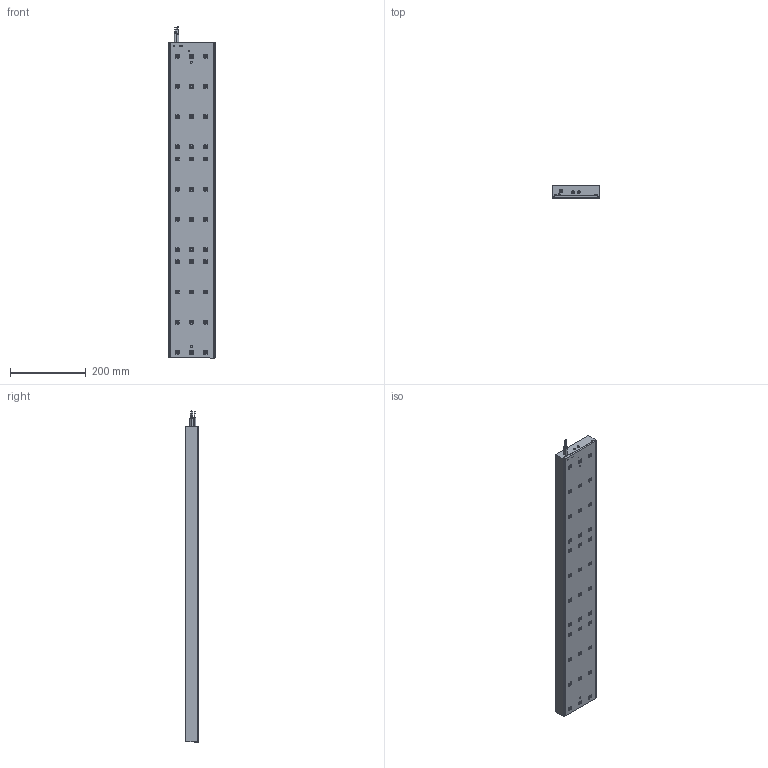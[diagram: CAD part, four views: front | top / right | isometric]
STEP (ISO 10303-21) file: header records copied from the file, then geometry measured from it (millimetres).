
FILE_DESCRIPTION (( 'STEP AP203' ), '1' );
FILE_NAME ('IC124-45 3D.STEP', '2022-10-24T20:42:14', ( '' ), ( '' ), 'SwSTEP 2.0', 'SolidWorks 2021', '' );
FILE_SCHEMA (( 'CONFIG_CONTROL_DESIGN' ));
Length unit declared in the file: millimetre
Products named in the file (7): IC124-15 resin.STEP; IC-124 dovetail rounded.STEP; sensor cable 3D.STEP; IC124-45 housing.STEP; IC124-45 3D; M3 nut hall module for 3D CU.STEP; power cable 3D.STEP
Assembly tree (18 placements, depth 2):
  IC124-45 3D
    IC124-45 housing.STEP
    IC124-15 resin.STEP
    IC-124 dovetail rounded.STEP  x12
    power cable 3D.STEP
    sensor cable 3D.STEP
    M3 nut hall module for 3D CU.STEP  x2
Bounding box: 125.15 x 32.4 x 879 mm (x, y, z)
Volume: 3388138.7 mm3; surface area: 542884.4 mm2
Topology: 18 solids, 18 shells, 1496 faces, 4299 edges, 2840 vertices
Faces by surface type: plane 764, cylinder 694, torus 26, sphere 12
Entity records: 25817 total; most frequent: CARTESIAN_POINT 4459, DIRECTION 4358, ORIENTED_EDGE 4278, EDGE_CURVE 2139, AXIS2_PLACEMENT_3D 1505, VERTEX_POINT 1414, VECTOR 1348, LINE 1348
